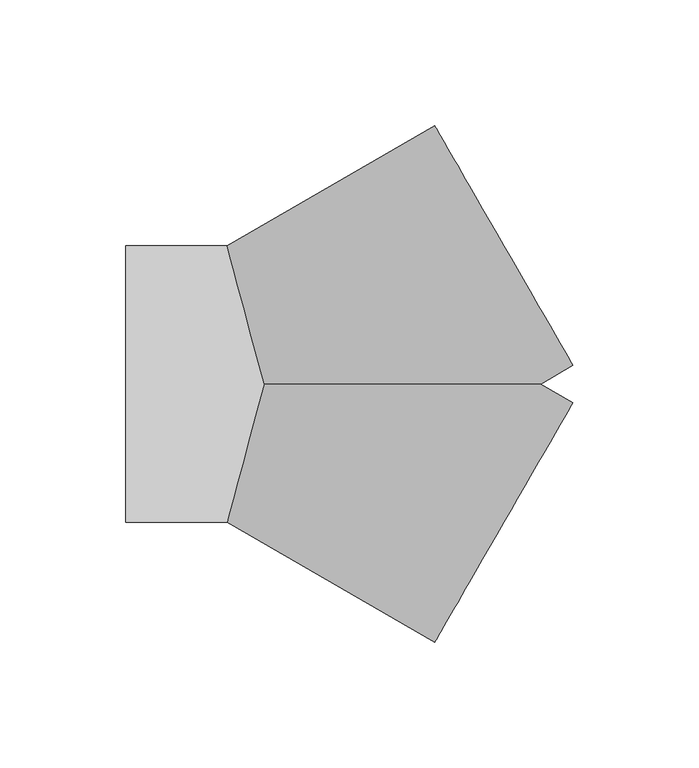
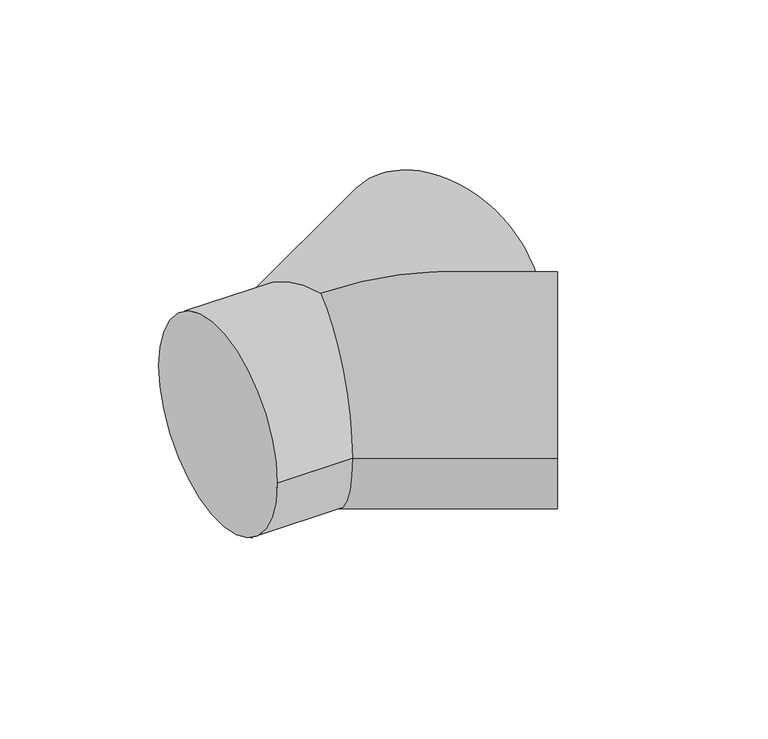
"""IFC4 building model written with IfcOpenShell, lengths in millimetres: pipe fitting geometry, Wavin_PipeFitting_PeBranchY : Var. PE DN."""

from ifc_helpers import new_model, si_unit, frame, origin, place, context, project, spatial, circle_curve, ellipse_curve, source, transform, mapped, element, save
from ifc_brep_helpers import plane_surface, cylinder_surface, advanced_brep


def pipe_fitting_c5e331b9(model_context):
    return source(origin(), model_context, "Body", "AdvancedBrep", [
        advanced_brep(
        [(122.7627944, 7.3686028, 0.0), (67.7627944, 102.6313972, 0.0), (-14.7372056, 55.0, 0.0), (0.0, 0.0, 55.0), (110.0, 0.0, 0.0), (0.0, 0.0, -55.0), (-55.0, -55.0, 0.0), (-55.0, 55.0, 0.0), (-14.7372056, -55.0, 0.0), (67.7627944, -102.6313972, 0.0), (122.7627944, -7.3686028, 0.0)],
        [
            (0, 1, circle_curve(frame((95.2627944, 55.0, 0.0), z_axis=(0.8660254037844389, 0.49999999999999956, 0.0), x_axis=(-0.49999999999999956, 0.8660254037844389, 0.0)), 55.0)),
            (1, 0, circle_curve(frame((95.2627944, 55.0, 0.0), z_axis=(0.8660254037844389, 0.49999999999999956, 0.0), x_axis=(-0.49999999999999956, 0.8660254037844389, 0.0)), 55.0)),
            (1, 2),
            (2, 3, ellipse_curve(frame((0.0, 0.0, 0.0), z_axis=(0.9659258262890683, 0.2588190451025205, 0.0), x_axis=(0.2588190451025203, -0.9659258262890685, 0.0)), 56.9401899, 55.0)),
            (3, 4, ellipse_curve(frame((0.0, 0.0, 0.0), z_axis=(0.0, 1.0, 0.0), x_axis=(-1.0, 0.0, 0.0)), 110.0, 55.0)),
            (4, 0),
            (4, 5, ellipse_curve(frame((0.0, 0.0, 0.0), z_axis=(0.0, 1.0, 0.0), x_axis=(-1.0, 0.0, 0.0)), 110.0, 55.0)),
            (5, 2, ellipse_curve(frame((0.0, 0.0, 0.0), z_axis=(0.9659258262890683, 0.2588190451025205, 0.0), x_axis=(0.2588190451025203, -0.9659258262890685, 0.0)), 56.9401899, 55.0)),
            (6, 7, circle_curve(frame((-55.0, 0.0, 0.0), z_axis=(-1.0, 0.0, 0.0), x_axis=(0.0, 1.0, 0.0)), 55.0)),
            (7, 6, circle_curve(frame((-55.0, 0.0, 0.0), z_axis=(-1.0, 0.0, 0.0), x_axis=(0.0, 1.0, 0.0)), 55.0)),
            (7, 2),
            (5, 8, ellipse_curve(frame((0.0, 0.0, 0.0), z_axis=(-0.9659258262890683, 0.2588190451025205, 0.0), x_axis=(0.2588190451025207, 0.9659258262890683, 0.0)), 56.9401899, 55.0)),
            (8, 6),
            (8, 3, ellipse_curve(frame((0.0, 0.0, 0.0), z_axis=(-0.9659258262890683, 0.2588190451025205, 0.0), x_axis=(0.2588190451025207, 0.9659258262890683, 0.0)), 56.9401899, 55.0)),
            (9, 10, circle_curve(frame((95.2627944, -55.0, 0.0), z_axis=(0.8660254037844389, -0.4999999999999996, 0.0), x_axis=(0.4999999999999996, 0.8660254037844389, 0.0)), 55.0)),
            (10, 9, circle_curve(frame((95.2627944, -55.0, 0.0), z_axis=(0.8660254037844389, -0.4999999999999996, 0.0), x_axis=(0.4999999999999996, 0.8660254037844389, 0.0)), 55.0)),
            (10, 4),
            (8, 9),
        ],
        [
            plane_surface(frame((95.2627944, 55.0, 0.0), z_axis=(0.8660254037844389, 0.49999999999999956, 0.0), x_axis=(0.0, 0.0, 1.0))),
            cylinder_surface(frame((0.0, 0.0, 0.0), z_axis=(-0.8660254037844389, -0.49999999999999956, 0.0), x_axis=(-0.49999999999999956, 0.8660254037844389, 0.0)), 55.0),
            plane_surface(frame((-55.0, 55.0, 0.0), z_axis=(-1.0, 0.0, 0.0), x_axis=(0.0, 0.0, -1.0))),
            cylinder_surface(frame((-55.0, 0.0, 0.0), z_axis=(1.0, 0.0, 0.0), x_axis=(0.0, 1.0, 0.0)), 55.0),
            plane_surface(frame((95.2627944, -55.0, 0.0), z_axis=(0.8660254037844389, -0.4999999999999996, 0.0), x_axis=(0.0, 0.0, 1.0))),
            cylinder_surface(frame((0.0, 0.0, 0.0), z_axis=(-0.8660254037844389, 0.4999999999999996, 0.0), x_axis=(0.4999999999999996, 0.8660254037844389, 0.0)), 55.0),
        ],
        [
            (0, [[1, 2]]),
            (1, [[-2, 3, 4, 5, 6]]),
            (1, [[-1, -6, 7, 8, -3]]),
            (2, [[9, 10]]),
            (3, [[-10, 11, -8, 12, 13]]),
            (3, [[-9, -13, 14, -4, -11]]),
            (4, [[15, 16]]),
            (5, [[-16, 17, -5, -14, 18]]),
            (5, [[-15, -18, -12, -7, -17]]),
        ],
    ),
    ])


if __name__ == "__main__":
    model = new_model("IFC4")
    model_context = context("Model", 3, world=origin())
    ifc_project = project(units=[si_unit("LENGTHUNIT", "METRE", prefix="MILLI")], contexts=[model_context])
    site = spatial("IfcSite", under=ifc_project)
    building = spatial("IfcBuilding", under=site)
    placement = place(None, origin())
    pipe_fitting_shape = pipe_fitting_c5e331b9(model_context)
    element("IfcPipeFitting", 1, ObjectType="Wavin_PipeFitting_PeBranchY : Var. PE DN", at=placement, inside=building, context=model_context, shape_type="MappedRepresentation", body=[
        mapped(pipe_fitting_shape, transform((0.0, 0.0, 0.0), x_axis=(1.0, 0.0, 0.0), y_axis=(0.0, 1.0, 0.0), z_axis=(0.0, 0.0, 1.0))),
    ])
    save(model, "model.ifc")
